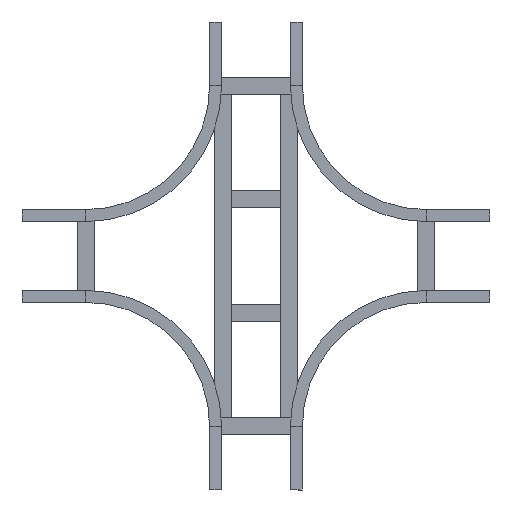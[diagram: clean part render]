
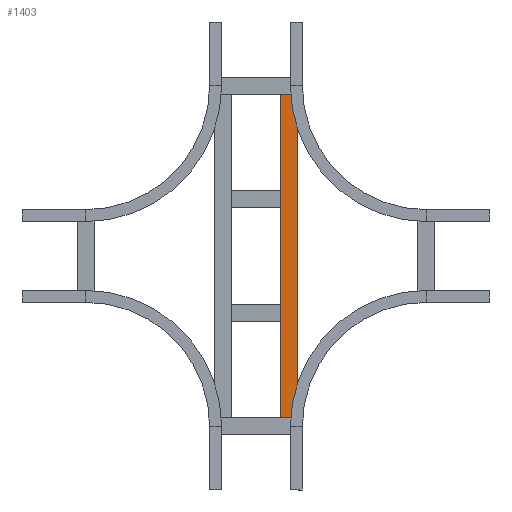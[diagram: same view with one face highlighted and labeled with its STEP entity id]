
A CAD part, front view. The second image highlights one B-rep face of the part: STEP entity #1403.
In plain terms, the highlighted planar face has unit normal (0, -1, 0).
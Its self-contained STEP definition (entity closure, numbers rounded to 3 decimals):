
#41 = DIRECTION ( 'NONE',  ( 0., 0., 1. ) ) ;
#57 = CARTESIAN_POINT ( 'NONE',  ( -379.75, 0., -20.25 ) ) ;
#75 = DIRECTION ( 'NONE',  ( -1., 0., 0. ) ) ;
#97 = VECTOR ( 'NONE', #1291, 1000. ) ;
#139 = EDGE_CURVE ( 'NONE', #882, #543, #1201, .T. ) ;
#234 = VECTOR ( 'NONE', #75, 1000. ) ;
#543 = VERTEX_POINT ( 'NONE', #57 ) ;
#598 = EDGE_CURVE ( 'NONE', #1880, #1789, #1618, .T. ) ;
#635 = CARTESIAN_POINT ( 'NONE',  ( -379.75, 0., 20.25 ) ) ;
#713 = PLANE ( 'NONE',  #2366 ) ;
#752 = EDGE_CURVE ( 'NONE', #1789, #543, #2359, .T. ) ;
#864 = ORIENTED_EDGE ( 'NONE', *, *, #598, .T. ) ;
#882 = VERTEX_POINT ( 'NONE', #2458 ) ;
#1001 = DIRECTION ( 'NONE',  ( -1., 0., 0. ) ) ;
#1201 = LINE ( 'NONE', #2058, #1587 ) ;
#1259 = CARTESIAN_POINT ( 'NONE',  ( 379.75, 0., 20.25 ) ) ;
#1291 = DIRECTION ( 'NONE',  ( 0., 0., -1. ) ) ;
#1353 = CARTESIAN_POINT ( 'NONE',  ( 379.75, 0., 20.25 ) ) ;
#1403 = ADVANCED_FACE ( 'NONE', ( #2223 ), #713, .F. ) ;
#1434 = VECTOR ( 'NONE', #2315, 1000. ) ;
#1471 = ORIENTED_EDGE ( 'NONE', *, *, #752, .T. ) ;
#1587 = VECTOR ( 'NONE', #1001, 1000. ) ;
#1589 = ORIENTED_EDGE ( 'NONE', *, *, #139, .F. ) ;
#1618 = LINE ( 'NONE', #2483, #234 ) ;
#1672 = CARTESIAN_POINT ( 'NONE',  ( 379.75, 0., 20.25 ) ) ;
#1789 = VERTEX_POINT ( 'NONE', #635 ) ;
#1790 = EDGE_CURVE ( 'NONE', #1880, #882, #2142, .T. ) ;
#1880 = VERTEX_POINT ( 'NONE', #1259 ) ;
#2006 = DIRECTION ( 'NONE',  ( 0., 1., 0. ) ) ;
#2058 = CARTESIAN_POINT ( 'NONE',  ( 379.75, 0., -20.25 ) ) ;
#2142 = LINE ( 'NONE', #1672, #1434 ) ;
#2223 = FACE_OUTER_BOUND ( 'NONE', #2304, .T. ) ;
#2304 = EDGE_LOOP ( 'NONE', ( #1471, #1589, #2545, #864 ) ) ;
#2315 = DIRECTION ( 'NONE',  ( 0., 0., -1. ) ) ;
#2359 = LINE ( 'NONE', #2397, #97 ) ;
#2366 = AXIS2_PLACEMENT_3D ( 'NONE', #1353, #2006, #41 ) ;
#2397 = CARTESIAN_POINT ( 'NONE',  ( -379.75, 0., 20.25 ) ) ;
#2458 = CARTESIAN_POINT ( 'NONE',  ( 379.75, 0., -20.25 ) ) ;
#2483 = CARTESIAN_POINT ( 'NONE',  ( 379.75, 0., 20.25 ) ) ;
#2545 = ORIENTED_EDGE ( 'NONE', *, *, #1790, .F. ) ;
